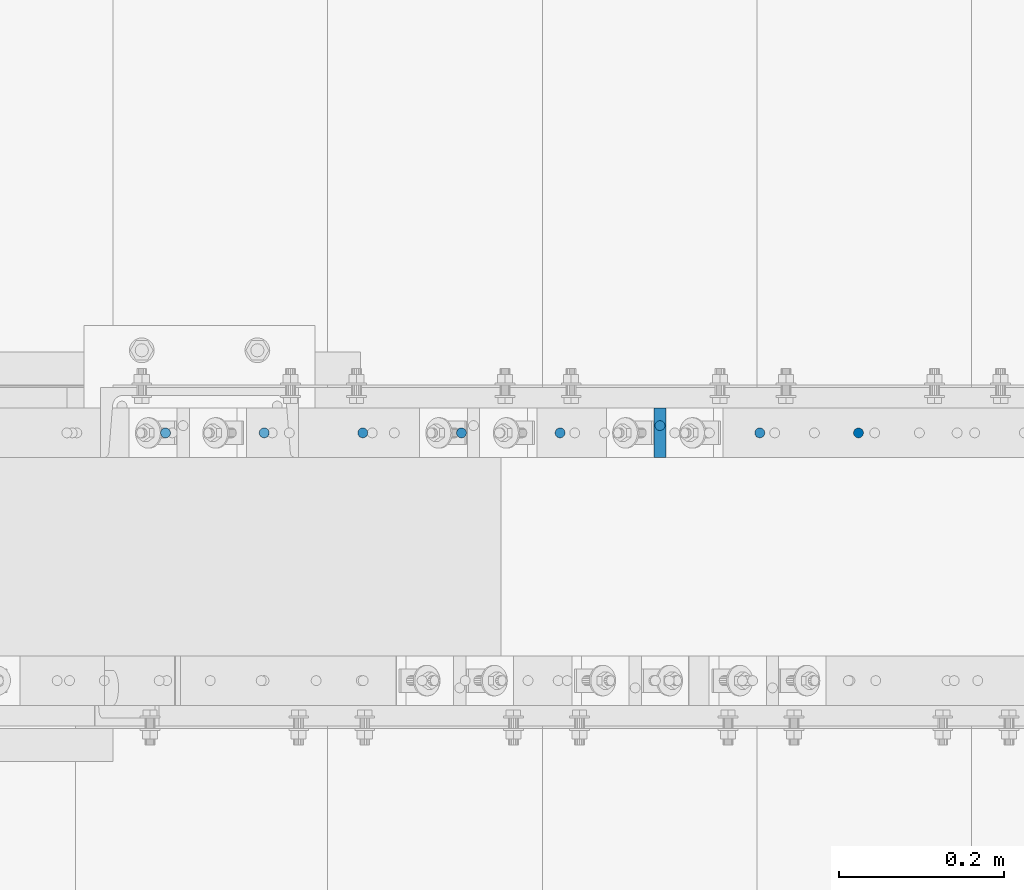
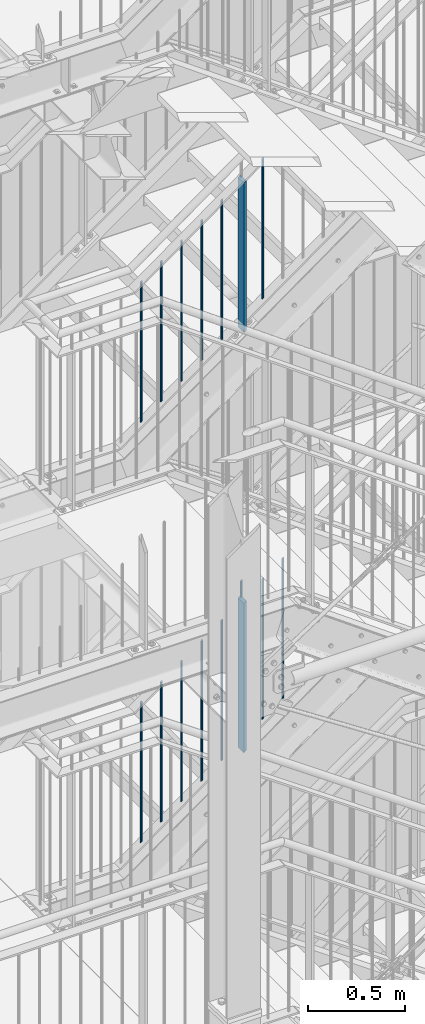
# One storey, part 44 of 825: 16 columns.
"""IFC2X3 building model written with IfcOpenShell, lengths in millimetres."""

from ifc_helpers import new_model, entity, si_unit, converted_unit, frame, origin, origin_with_axes, origin_2d, place, context, project, spatial, rectangle, circle, extrude, clip, halfspace, material, element, save


model = new_model("IFC2X3")

# Units and contexts
model_context = context("Model", 3, precision=1e-09, world=origin_with_axes())
ifc_project = project(units=[si_unit("LENGTHUNIT", "METRE", prefix="MILLI"), si_unit("AREAUNIT", "SQUARE_METRE"), si_unit("VOLUMEUNIT", "CUBIC_METRE"), converted_unit("PLANEANGLEUNIT", "DEGREE", entity("IfcPlaneAngleMeasure", 0.01745329), si_unit("PLANEANGLEUNIT", "RADIAN"), dimensions=[0, 0, 0, 0, 0, 0, 0])], contexts=[model_context])

# Site, building, storey
site_placement = place(None, origin_with_axes())
site = spatial("IfcSite", under=ifc_project, at=site_placement, Name="Cnopf'sche Kinderklinik", CompositionType="ELEMENT")
building_placement = place(site_placement, origin_with_axes())
building = spatial("IfcBuilding", under=site, at=building_placement, Name="Struktur 1", CompositionType="ELEMENT")
storey_placement = place(building_placement, origin_with_axes())
storey = spatial("IfcBuildingStorey", under=building, at=storey_placement, Name="Default Storey", CompositionType="ELEMENT", Elevation=0.0)

# Columns
ifc_material = material(Name="S235JR")
column_1_placement = place(None, frame((5899.213902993, 6091.736971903, 8838.697356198), z_axis=(0.0, 0.0, 1.0), x_axis=(1.0, 0.0, 0.0)))
element("IfcColumn", 1, at=column_1_placement, inside=storey, material=ifc_material, Name="Railing_Post_Stair#1", ObjectType="Railing_Post_Stair#1", context=model_context, shape_type="Clipping", body=[
    clip(clip(extrude(rectangle(XDim=15.0, YDim=60.0, at=origin_2d()), origin(), (0.0, 0.0, -1.0), 1013.13824851), halfspace(frame((-7607.685048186, -6091.736971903, -6475.918112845), z_axis=(-0.585945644, 0.0, 0.810350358), x_axis=(0.0, -1.0, 0.0)), True)), halfspace(frame((-8052.504721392, -6091.736971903, -5860.741969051), z_axis=(0.585945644, 0.0, -0.810350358), x_axis=(0.0, 1.0, 0.0)), True)),
])
column_2_placement = place(None, frame((5300.463652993, 6091.736971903, 8378.065596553), z_axis=(0.0, 0.0, 1.0), x_axis=(1.0, 0.0, 0.0)))
element("IfcColumn", 2, at=column_2_placement, inside=storey, material=ifc_material, Name="Railing_Picket_Stair#4", ObjectType="Railing_Picket_Stair#4", context=model_context, shape_type="Clipping", body=[
    clip(clip(extrude(circle(Radius=6.0, at=origin_2d()), origin(), (0.0, 0.0, -1.0), 896.057999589), halfspace(frame((-7453.754471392, -6091.736971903, -5400.110209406), z_axis=(0.585945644, 0.0, -0.810350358), x_axis=(0.0, 1.0, 0.0)), True)), halfspace(frame((-7038.232080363, -6091.736971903, -5974.768835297), z_axis=(-0.585945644, 0.0, 0.810350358), x_axis=(0.0, -1.0, 0.0)), True)),
])
column_3_placement = place(None, frame((5419.913715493, 6091.736971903, 8464.437180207), z_axis=(0.0, 0.0, 1.0), x_axis=(1.0, 0.0, 0.0)))
element("IfcColumn", 3, at=column_3_placement, inside=storey, material=ifc_material, Name="Railing_Picket_Stair#5", ObjectType="Railing_Picket_Stair#5", context=model_context, shape_type="Clipping", body=[
    clip(clip(extrude(circle(Radius=6.0, at=origin_2d()), origin(), (0.0, 0.0, -1.0), 896.057999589), halfspace(frame((-7573.204533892, -6091.736971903, -5486.48179306), z_axis=(0.585945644, 0.0, -0.810350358), x_axis=(0.0, 1.0, 0.0)), True)), halfspace(frame((-7157.682142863, -6091.736971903, -6061.140418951), z_axis=(-0.585945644, 0.0, 0.810350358), x_axis=(0.0, -1.0, 0.0)), True)),
])
column_4_placement = place(None, frame((5539.363777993, 6091.736971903, 8550.808763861), z_axis=(0.0, 0.0, 1.0), x_axis=(1.0, 0.0, 0.0)))
element("IfcColumn", 4, at=column_4_placement, inside=storey, material=ifc_material, Name="Railing_Picket_Stair#6", ObjectType="Railing_Picket_Stair#6", context=model_context, shape_type="Clipping", body=[
    clip(clip(extrude(circle(Radius=6.0, at=origin_2d()), origin(), (0.0, 0.0, -1.0), 896.057999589), halfspace(frame((-7692.654596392, -6091.736971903, -5572.853376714), z_axis=(0.585945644, 0.0, -0.810350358), x_axis=(0.0, 1.0, 0.0)), True)), halfspace(frame((-7277.132205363, -6091.736971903, -6147.512002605), z_axis=(-0.585945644, 0.0, 0.810350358), x_axis=(0.0, -1.0, 0.0)), True)),
])
column_5_placement = place(None, frame((5658.813840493, 6091.736971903, 8637.180347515), z_axis=(0.0, 0.0, 1.0), x_axis=(1.0, 0.0, 0.0)))
element("IfcColumn", 5, at=column_5_placement, inside=storey, material=ifc_material, Name="Railing_Picket_Stair#7", ObjectType="Railing_Picket_Stair#7", context=model_context, shape_type="Clipping", body=[
    clip(clip(extrude(circle(Radius=6.0, at=origin_2d()), origin(), (0.0, 0.0, -1.0), 896.057999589), halfspace(frame((-7812.104658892, -6091.736971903, -5659.224960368), z_axis=(0.585945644, 0.0, -0.810350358), x_axis=(0.0, 1.0, 0.0)), True)), halfspace(frame((-7396.582267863, -6091.736971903, -6233.883586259), z_axis=(-0.585945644, 0.0, 0.810350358), x_axis=(0.0, -1.0, 0.0)), True)),
])
column_6_placement = place(None, frame((5778.263902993, 6091.736971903, 8723.551931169), z_axis=(0.0, 0.0, 1.0), x_axis=(1.0, 0.0, 0.0)))
element("IfcColumn", 6, at=column_6_placement, inside=storey, material=ifc_material, Name="Railing_Picket_Stair#8", ObjectType="Railing_Picket_Stair#8", context=model_context, shape_type="Clipping", body=[
    clip(clip(extrude(circle(Radius=6.0, at=origin_2d()), origin(), (0.0, 0.0, -1.0), 896.057999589), halfspace(frame((-7931.554721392, -6091.736971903, -5745.596544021), z_axis=(0.585945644, 0.0, -0.810350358), x_axis=(0.0, 1.0, 0.0)), True)), halfspace(frame((-7516.032330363, -6091.736971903, -6320.255169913), z_axis=(-0.585945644, 0.0, 0.810350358), x_axis=(0.0, -1.0, 0.0)), True)),
])
column_7_placement = place(None, frame((6020.163902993, 6091.736971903, 8898.464238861), z_axis=(0.0, 0.0, 1.0), x_axis=(1.0, 0.0, 0.0)))
element("IfcColumn", 7, at=column_7_placement, inside=storey, material=ifc_material, Name="Railing_Picket_Stair#9", ObjectType="Railing_Picket_Stair#9", context=model_context, shape_type="Clipping", body=[
    clip(clip(extrude(circle(Radius=6.0, at=origin_2d()), origin(), (0.0, 0.0, -1.0), 896.057999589), halfspace(frame((-8173.454721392, -6091.736971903, -5920.508851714), z_axis=(0.585945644, 0.0, -0.810350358), x_axis=(0.0, 1.0, 0.0)), True)), halfspace(frame((-7757.932330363, -6091.736971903, -6495.167477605), z_axis=(-0.585945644, 0.0, 0.810350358), x_axis=(0.0, -1.0, 0.0)), True)),
])
column_8_placement = place(None, frame((6139.613965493, 6091.736971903, 8984.835822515), z_axis=(0.0, 0.0, 1.0), x_axis=(1.0, 0.0, 0.0)))
element("IfcColumn", 8, at=column_8_placement, inside=storey, material=ifc_material, Name="Railing_Picket_Stair#10", ObjectType="Railing_Picket_Stair#10", context=model_context, shape_type="Clipping", body=[
    clip(clip(extrude(circle(Radius=6.0, at=origin_2d()), origin(), (0.0, 0.0, -1.0), 896.057999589), halfspace(frame((-8292.904783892, -6091.736971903, -6006.880435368), z_axis=(0.585945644, 0.0, -0.810350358), x_axis=(0.0, 1.0, 0.0)), True)), halfspace(frame((-7877.382392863, -6091.736971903, -6581.539061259), z_axis=(-0.585945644, 0.0, 0.810350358), x_axis=(0.0, -1.0, 0.0)), True)),
])
column_9_placement = place(None, frame((5899.213902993, 6100.536971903, 8923.348426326), z_axis=(0.0, 0.0, 1.0), x_axis=(0.0, -1.0, 0.0)))
element("IfcColumn", 9, at=column_9_placement, inside=storey, material=ifc_material, Name="Bar#1", ObjectType="Bar#1", context=model_context, shape_type="Clipping", body=[
    clip(clip(extrude(circle(Radius=6.0, at=origin_2d()), origin(), (0.0, 0.0, -1.0), 120.942253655), halfspace(frame((6100.536971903, -8058.365349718, -5937.287914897), z_axis=(0.0, -0.585945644, 0.810350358), x_axis=(1.0, 0.0, 0.0)), True)), halfspace(frame((6100.536971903, -8105.846304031, -5871.622765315), z_axis=(0.0, 0.585945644, -0.810350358), x_axis=(-1.0, 0.0, 0.0)), True)),
])
column_10_placement = place(None, frame((5899.213902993, 6091.736971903, 11469.787550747), z_axis=(0.0, 0.0, 1.0), x_axis=(1.0, 0.0, 0.0)))
element("IfcColumn", 10, at=column_10_placement, inside=storey, material=ifc_material, Name="Railing_Post_Stair#1", ObjectType="Railing_Post_Stair#1", context=model_context, shape_type="Clipping", body=[
    clip(clip(extrude(rectangle(XDim=15.0, YDim=60.0, at=origin_2d()), origin(), (0.0, 0.0, -1.0), 1013.129684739), halfspace(frame((-8859.053647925, -6091.736971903, -7368.60115237), z_axis=(-0.585213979, 0.0, 0.810878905), x_axis=(0.0, -1.0, 0.0)), True)), halfspace(frame((-9303.627192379, -6091.736971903, -6752.595175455), z_axis=(0.585213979, 0.0, -0.810878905), x_axis=(0.0, 1.0, 0.0)), True)),
])
column_11_placement = place(None, frame((5300.463652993, 6091.736971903, 11009.996298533), z_axis=(0.0, 0.0, 1.0), x_axis=(1.0, 0.0, 0.0)))
element("IfcColumn", 11, at=column_11_placement, inside=storey, material=ifc_material, Name="Railing_Picket_Stair#4", ObjectType="Railing_Picket_Stair#4", context=model_context, shape_type="Clipping", body=[
    clip(clip(extrude(circle(Radius=6.0, at=origin_2d()), origin(), (0.0, 0.0, -1.0), 896.125751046), halfspace(frame((-8704.876942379, -6091.736971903, -6292.80392324), z_axis=(0.585213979, 0.0, -0.810878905), x_axis=(0.0, 1.0, 0.0)), True)), halfspace(frame((-8289.564096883, -6091.736971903, -6868.265954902), z_axis=(-0.585213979, 0.0, 0.810878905), x_axis=(0.0, -1.0, 0.0)), True)),
])
column_12_placement = place(None, frame((5419.913715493, 6091.736971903, 11096.203802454), z_axis=(0.0, 0.0, 1.0), x_axis=(1.0, 0.0, 0.0)))
element("IfcColumn", 12, at=column_12_placement, inside=storey, material=ifc_material, Name="Railing_Picket_Stair#5", ObjectType="Railing_Picket_Stair#5", context=model_context, shape_type="Clipping", body=[
    clip(clip(extrude(circle(Radius=6.0, at=origin_2d()), origin(), (0.0, 0.0, -1.0), 896.125751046), halfspace(frame((-8824.327004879, -6091.736971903, -6379.011427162), z_axis=(0.585213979, 0.0, -0.810878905), x_axis=(0.0, 1.0, 0.0)), True)), halfspace(frame((-8409.014159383, -6091.736971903, -6954.473458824), z_axis=(-0.585213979, 0.0, 0.810878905), x_axis=(0.0, -1.0, 0.0)), True)),
])
column_13_placement = place(None, frame((5539.363777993, 6091.736971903, 11182.411306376), z_axis=(0.0, 0.0, 1.0), x_axis=(1.0, 0.0, 0.0)))
element("IfcColumn", 13, at=column_13_placement, inside=storey, material=ifc_material, Name="Railing_Picket_Stair#6", ObjectType="Railing_Picket_Stair#6", context=model_context, shape_type="Clipping", body=[
    clip(clip(extrude(circle(Radius=6.0, at=origin_2d()), origin(), (0.0, 0.0, -1.0), 896.125751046), halfspace(frame((-8943.777067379, -6091.736971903, -6465.218931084), z_axis=(0.585213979, 0.0, -0.810878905), x_axis=(0.0, 1.0, 0.0)), True)), halfspace(frame((-8528.464221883, -6091.736971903, -7040.680962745), z_axis=(-0.585213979, 0.0, 0.810878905), x_axis=(0.0, -1.0, 0.0)), True)),
])
column_14_placement = place(None, frame((5658.813840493, 6091.736971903, 11268.618810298), z_axis=(0.0, 0.0, 1.0), x_axis=(1.0, 0.0, 0.0)))
element("IfcColumn", 14, at=column_14_placement, inside=storey, material=ifc_material, Name="Railing_Picket_Stair#7", ObjectType="Railing_Picket_Stair#7", context=model_context, shape_type="Clipping", body=[
    clip(clip(extrude(circle(Radius=6.0, at=origin_2d()), origin(), (0.0, 0.0, -1.0), 896.125751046), halfspace(frame((-9063.227129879, -6091.736971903, -6551.426435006), z_axis=(0.585213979, 0.0, -0.810878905), x_axis=(0.0, 1.0, 0.0)), True)), halfspace(frame((-8647.914284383, -6091.736971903, -7126.888466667), z_axis=(-0.585213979, 0.0, 0.810878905), x_axis=(0.0, -1.0, 0.0)), True)),
])
column_15_placement = place(None, frame((5778.263902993, 6091.736971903, 11354.82631422), z_axis=(0.0, 0.0, 1.0), x_axis=(1.0, 0.0, 0.0)))
element("IfcColumn", 15, at=column_15_placement, inside=storey, material=ifc_material, Name="Railing_Picket_Stair#8", ObjectType="Railing_Picket_Stair#8", context=model_context, shape_type="Clipping", body=[
    clip(clip(extrude(circle(Radius=6.0, at=origin_2d()), origin(), (0.0, 0.0, -1.0), 896.125751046), halfspace(frame((-9182.677192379, -6091.736971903, -6637.633938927), z_axis=(0.585213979, 0.0, -0.810878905), x_axis=(0.0, 1.0, 0.0)), True)), halfspace(frame((-8767.364346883, -6091.736971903, -7213.095970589), z_axis=(-0.585213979, 0.0, 0.810878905), x_axis=(0.0, -1.0, 0.0)), True)),
])
column_16_placement = place(None, frame((6020.163902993, 6091.736971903, 11529.406341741), z_axis=(0.0, 0.0, 1.0), x_axis=(1.0, 0.0, 0.0)))
element("IfcColumn", 16, at=column_16_placement, inside=storey, material=ifc_material, Name="Railing_Picket_Stair#9", ObjectType="Railing_Picket_Stair#9", context=model_context, shape_type="Clipping", body=[
    clip(clip(extrude(circle(Radius=6.0, at=origin_2d()), origin(), (0.0, 0.0, -1.0), 896.125751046), halfspace(frame((-9424.577192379, -6091.736971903, -6812.213966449), z_axis=(0.585213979, 0.0, -0.810878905), x_axis=(0.0, 1.0, 0.0)), True)), halfspace(frame((-9009.264346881, -6091.736971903, -7387.675998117), z_axis=(-0.585213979, 0.0, 0.810878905), x_axis=(0.0, -1.0, 0.0)), True)),
])

save(model, "model.ifc")
